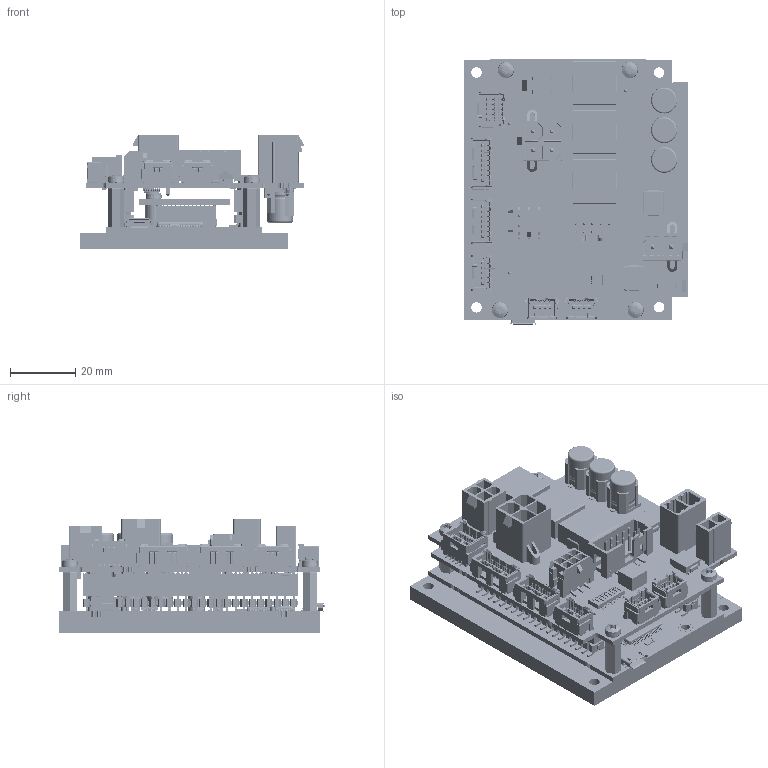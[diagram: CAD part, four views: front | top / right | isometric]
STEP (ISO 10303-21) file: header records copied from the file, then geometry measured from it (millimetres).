
FILE_DESCRIPTION((''),'2;1');
FILE_NAME('894250_EPOS4_COMP_60-20_CAN','2025-05-16T13:28:19',('mmagvisi'),(''),'CREO PARAMETRIC BY PTC INC, 2023092','CREO PARAMETRIC BY PTC INC, 2023092','');
FILE_SCHEMA(('CONFIG_CONTROL_DESIGN','SHAPE_APPEARANCE_LAYERS_GROUPS'));
Products named in the file (1): 894250_EPOS4_COMP_60-20_CAN
Bounding box: 69 x 81.3 x 34.86 mm (x, y, z)
Volume: 56238.8 mm3; surface area: 65784 mm2
Topology: 11 solids, 11 shells, 15656 faces, 46180 edges, 30178 vertices
Faces by surface type: plane 12743, cylinder 2519, sphere 144, bspline 120, cone 89, torus 37, extrusion 4
Entity records: 673994 total; most frequent: CARTESIAN_POINT 115842, ORIENTED_EDGE 92084, DIRECTION 80221, PRESENTATION_STYLE_ASSIGNMENT 46053, STYLED_ITEM 46053, CURVE_STYLE 46042, EDGE_CURVE 46042, VECTOR 39675
